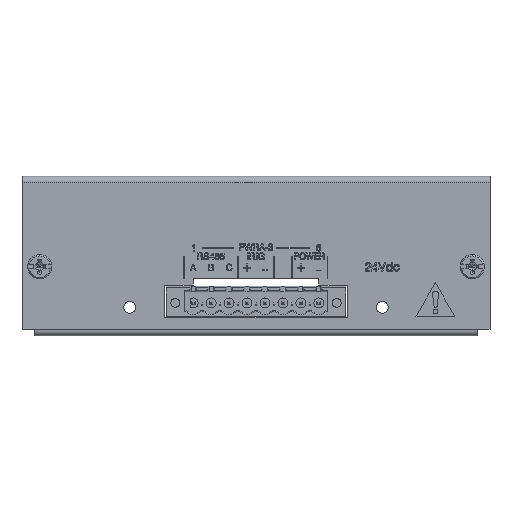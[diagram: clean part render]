
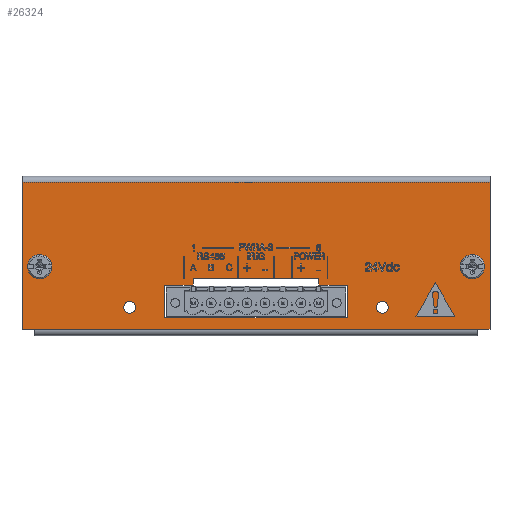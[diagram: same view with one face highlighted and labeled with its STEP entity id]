
A CAD part, top view. The second image highlights one B-rep face of the part: STEP entity #26324.
In plain terms, the highlighted planar face has unit normal (0, 0, 1) as drawn and (0, 1, 0) by its records, which use the part's own axes.
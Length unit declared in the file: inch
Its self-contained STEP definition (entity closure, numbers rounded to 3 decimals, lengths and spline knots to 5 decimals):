
#1705=FACE_BOUND('',#4621,.T.);
#1706=FACE_BOUND('',#4622,.T.);
#1707=FACE_BOUND('',#4623,.T.);
#1708=FACE_BOUND('',#4624,.T.);
#1709=FACE_BOUND('',#4625,.T.);
#1846=PLANE('',#28097);
#3072=FACE_OUTER_BOUND('',#4620,.T.);
#4620=EDGE_LOOP('',(#18751,#18752,#18753,#18754,#18755,#18756,#18757,#18758));
#4621=EDGE_LOOP('',(#18759,#18760,#18761,#18762,#18763,#18764,#18765,#18766));
#4622=EDGE_LOOP('',(#18767));
#4623=EDGE_LOOP('',(#18768));
#4624=EDGE_LOOP('',(#18769,#18770));
#4625=EDGE_LOOP('',(#18771,#18772));
#6317=LINE('',#36457,#9246);
#6321=LINE('',#36466,#9250);
#6330=LINE('',#36493,#9259);
#6331=LINE('',#36497,#9260);
#6334=LINE('',#36503,#9263);
#6335=LINE('',#36507,#9264);
#6336=LINE('',#36508,#9265);
#6337=LINE('',#36509,#9266);
#6338=LINE('',#36512,#9267);
#6339=LINE('',#36514,#9268);
#6340=LINE('',#36516,#9269);
#6341=LINE('',#36518,#9270);
#6342=LINE('',#36520,#9271);
#6343=LINE('',#36522,#9272);
#6344=LINE('',#36524,#9273);
#6345=LINE('',#36525,#9274);
#9246=VECTOR('',#29943,0.3937);
#9250=VECTOR('',#29949,0.3937);
#9259=VECTOR('',#29970,0.3937);
#9260=VECTOR('',#29975,0.3937);
#9263=VECTOR('',#29980,0.3937);
#9264=VECTOR('',#29985,0.3937);
#9265=VECTOR('',#29986,0.3937);
#9266=VECTOR('',#29987,0.3937);
#9267=VECTOR('',#29988,0.3937);
#9268=VECTOR('',#29989,0.3937);
#9269=VECTOR('',#29990,0.3937);
#9270=VECTOR('',#29991,0.3937);
#9271=VECTOR('',#29992,0.3937);
#9272=VECTOR('',#29993,0.3937);
#9273=VECTOR('',#29994,0.3937);
#9274=VECTOR('',#29995,0.3937);
#12151=CIRCLE('',#28098,0.095);
#12152=CIRCLE('',#28099,0.095);
#12153=CIRCLE('',#28100,0.066);
#12154=CIRCLE('',#28101,0.066);
#12155=CIRCLE('',#28102,0.066);
#12156=CIRCLE('',#28103,0.066);
#12518=VERTEX_POINT('',#36454);
#12519=VERTEX_POINT('',#36456);
#12522=VERTEX_POINT('',#36463);
#12523=VERTEX_POINT('',#36465);
#12535=VERTEX_POINT('',#36492);
#12536=VERTEX_POINT('',#36496);
#12538=VERTEX_POINT('',#36502);
#12539=VERTEX_POINT('',#36506);
#12540=VERTEX_POINT('',#36510);
#12541=VERTEX_POINT('',#36511);
#12542=VERTEX_POINT('',#36513);
#12543=VERTEX_POINT('',#36515);
#12544=VERTEX_POINT('',#36517);
#12545=VERTEX_POINT('',#36519);
#12546=VERTEX_POINT('',#36521);
#12547=VERTEX_POINT('',#36523);
#12548=VERTEX_POINT('',#36526);
#12549=VERTEX_POINT('',#36528);
#12550=VERTEX_POINT('',#36530);
#12551=VERTEX_POINT('',#36531);
#12552=VERTEX_POINT('',#36534);
#12553=VERTEX_POINT('',#36535);
#14926=EDGE_CURVE('',#12519,#12518,#6317,.T.);
#14930=EDGE_CURVE('',#12523,#12522,#6321,.T.);
#14944=EDGE_CURVE('',#12535,#12519,#6330,.T.);
#14946=EDGE_CURVE('',#12523,#12536,#6331,.T.);
#14949=EDGE_CURVE('',#12538,#12535,#6334,.T.);
#14951=EDGE_CURVE('',#12539,#12518,#6335,.T.);
#14952=EDGE_CURVE('',#12539,#12536,#6336,.T.);
#14953=EDGE_CURVE('',#12522,#12538,#6337,.T.);
#14954=EDGE_CURVE('',#12540,#12541,#6338,.T.);
#14955=EDGE_CURVE('',#12541,#12542,#6339,.T.);
#14956=EDGE_CURVE('',#12542,#12543,#6340,.T.);
#14957=EDGE_CURVE('',#12543,#12544,#6341,.T.);
#14958=EDGE_CURVE('',#12544,#12545,#6342,.T.);
#14959=EDGE_CURVE('',#12545,#12546,#6343,.T.);
#14960=EDGE_CURVE('',#12546,#12547,#6344,.T.);
#14961=EDGE_CURVE('',#12547,#12540,#6345,.T.);
#14962=EDGE_CURVE('',#12548,#12548,#12151,.T.);
#14963=EDGE_CURVE('',#12549,#12549,#12152,.T.);
#14964=EDGE_CURVE('',#12550,#12551,#12153,.T.);
#14965=EDGE_CURVE('',#12551,#12550,#12154,.T.);
#14966=EDGE_CURVE('',#12552,#12553,#12155,.T.);
#14967=EDGE_CURVE('',#12553,#12552,#12156,.T.);
#18751=ORIENTED_EDGE('',*,*,#14944,.T.);
#18752=ORIENTED_EDGE('',*,*,#14926,.T.);
#18753=ORIENTED_EDGE('',*,*,#14951,.F.);
#18754=ORIENTED_EDGE('',*,*,#14952,.T.);
#18755=ORIENTED_EDGE('',*,*,#14946,.F.);
#18756=ORIENTED_EDGE('',*,*,#14930,.T.);
#18757=ORIENTED_EDGE('',*,*,#14953,.T.);
#18758=ORIENTED_EDGE('',*,*,#14949,.T.);
#18759=ORIENTED_EDGE('',*,*,#14954,.T.);
#18760=ORIENTED_EDGE('',*,*,#14955,.T.);
#18761=ORIENTED_EDGE('',*,*,#14956,.T.);
#18762=ORIENTED_EDGE('',*,*,#14957,.T.);
#18763=ORIENTED_EDGE('',*,*,#14958,.T.);
#18764=ORIENTED_EDGE('',*,*,#14959,.T.);
#18765=ORIENTED_EDGE('',*,*,#14960,.T.);
#18766=ORIENTED_EDGE('',*,*,#14961,.T.);
#18767=ORIENTED_EDGE('',*,*,#14962,.T.);
#18768=ORIENTED_EDGE('',*,*,#14963,.T.);
#18769=ORIENTED_EDGE('',*,*,#14964,.T.);
#18770=ORIENTED_EDGE('',*,*,#14965,.T.);
#18771=ORIENTED_EDGE('',*,*,#14966,.T.);
#18772=ORIENTED_EDGE('',*,*,#14967,.T.);
#26324=ADVANCED_FACE('',(#3072,#1705,#1706,#1707,#1708,#1709),#1846,.T.);
#28097=AXIS2_PLACEMENT_3D('',#36505,#29983,#29984);
#28098=AXIS2_PLACEMENT_3D('',#36527,#29996,#29997);
#28099=AXIS2_PLACEMENT_3D('',#36529,#29998,#29999);
#28100=AXIS2_PLACEMENT_3D('',#36532,#30000,#30001);
#28101=AXIS2_PLACEMENT_3D('',#36533,#30002,#30003);
#28102=AXIS2_PLACEMENT_3D('',#36536,#30004,#30005);
#28103=AXIS2_PLACEMENT_3D('',#36537,#30006,#30007);
#29943=DIRECTION('',(1.,0.,0.));
#29949=DIRECTION('',(1.,0.,0.));
#29970=DIRECTION('',(0.,0.,-1.));
#29975=DIRECTION('',(0.,0.,-1.));
#29980=DIRECTION('',(1.,0.,0.));
#29983=DIRECTION('center_axis',(0.,1.,0.));
#29984=DIRECTION('ref_axis',(0.,0.,1.));
#29985=DIRECTION('',(0.,0.,1.));
#29986=DIRECTION('',(-1.,0.,0.));
#29987=DIRECTION('',(0.,0.,1.));
#29988=DIRECTION('',(0.,0.,1.));
#29989=DIRECTION('',(-1.,0.,0.));
#29990=DIRECTION('',(0.,0.,-1.));
#29991=DIRECTION('',(1.,0.,0.));
#29992=DIRECTION('',(0.,0.,-1.));
#29993=DIRECTION('',(1.,0.,0.));
#29994=DIRECTION('',(0.,0.,1.));
#29995=DIRECTION('',(1.,0.,0.));
#29996=DIRECTION('center_axis',(0.,-1.,0.));
#29997=DIRECTION('ref_axis',(1.,0.,0.));
#29998=DIRECTION('center_axis',(0.,-1.,0.));
#29999=DIRECTION('ref_axis',(1.,0.,0.));
#30000=DIRECTION('center_axis',(0.,-1.,0.));
#30001=DIRECTION('ref_axis',(1.,0.,0.));
#30002=DIRECTION('center_axis',(0.,-1.,0.));
#30003=DIRECTION('ref_axis',(1.,0.,0.));
#30004=DIRECTION('center_axis',(0.,-1.,0.));
#30005=DIRECTION('ref_axis',(-1.,0.,0.));
#30006=DIRECTION('center_axis',(0.,-1.,0.));
#30007=DIRECTION('ref_axis',(-1.,0.,0.));
#36454=CARTESIAN_POINT('',(2.61,0.0359,0.82));
#36456=CARTESIAN_POINT('',(2.475,0.0359,0.82));
#36457=CARTESIAN_POINT('',(1.27868,0.0359,0.82));
#36463=CARTESIAN_POINT('',(-2.475,0.0359,0.82));
#36465=CARTESIAN_POINT('',(-2.61,0.0359,0.82));
#36466=CARTESIAN_POINT('',(-1.28513,0.0359,0.82));
#36492=CARTESIAN_POINT('',(2.475,0.0359,0.82285));
#36493=CARTESIAN_POINT('',(2.475,0.0359,0.445));
#36496=CARTESIAN_POINT('',(-2.61,0.0359,-0.82285));
#36497=CARTESIAN_POINT('',(-2.61,0.0359,0.89));
#36502=CARTESIAN_POINT('',(-2.475,0.0359,0.82285));
#36503=CARTESIAN_POINT('',(-1.305,0.0359,0.82285));
#36505=CARTESIAN_POINT('Origin',(0.,0.0359,0.));
#36506=CARTESIAN_POINT('',(2.61,0.0359,-0.82285));
#36507=CARTESIAN_POINT('',(2.61,0.0359,-0.89));
#36508=CARTESIAN_POINT('',(1.305,0.0359,-0.82285));
#36509=CARTESIAN_POINT('',(-2.475,0.0359,0.445));
#36510=CARTESIAN_POINT('',(1.02,0.0359,0.325));
#36511=CARTESIAN_POINT('',(1.02,0.0359,0.69));
#36512=CARTESIAN_POINT('',(1.02,0.0359,0.345));
#36513=CARTESIAN_POINT('',(-1.02,0.0359,0.69));
#36514=CARTESIAN_POINT('',(-0.51,0.0359,0.69));
#36515=CARTESIAN_POINT('',(-1.02,0.0359,0.325));
#36516=CARTESIAN_POINT('',(-1.02,0.0359,0.125));
#36517=CARTESIAN_POINT('',(-0.7,0.0359,0.325));
#36518=CARTESIAN_POINT('',(-1.02,0.0359,0.325));
#36519=CARTESIAN_POINT('',(-0.7,0.0359,0.25));
#36520=CARTESIAN_POINT('',(-0.7,0.0359,0.325));
#36521=CARTESIAN_POINT('',(0.7,0.0359,0.25));
#36522=CARTESIAN_POINT('',(0.51,0.0359,0.25));
#36523=CARTESIAN_POINT('',(0.7,0.0359,0.325));
#36524=CARTESIAN_POINT('',(0.7,0.0359,0.25));
#36525=CARTESIAN_POINT('',(0.7,0.0359,0.325));
#36526=CARTESIAN_POINT('',(-2.507,0.0359,0.12));
#36527=CARTESIAN_POINT('Origin',(-2.412,0.0359,0.12));
#36528=CARTESIAN_POINT('',(2.317,0.0359,0.12));
#36529=CARTESIAN_POINT('Origin',(2.412,0.0359,0.12));
#36530=CARTESIAN_POINT('',(-1.344,0.0359,0.572));
#36531=CARTESIAN_POINT('',(-1.476,0.0359,0.572));
#36532=CARTESIAN_POINT('Origin',(-1.41,0.0359,0.572));
#36533=CARTESIAN_POINT('Origin',(-1.41,0.0359,0.572));
#36534=CARTESIAN_POINT('',(1.344,0.0359,0.572));
#36535=CARTESIAN_POINT('',(1.476,0.0359,0.572));
#36536=CARTESIAN_POINT('Origin',(1.41,0.0359,0.572));
#36537=CARTESIAN_POINT('Origin',(1.41,0.0359,0.572));
